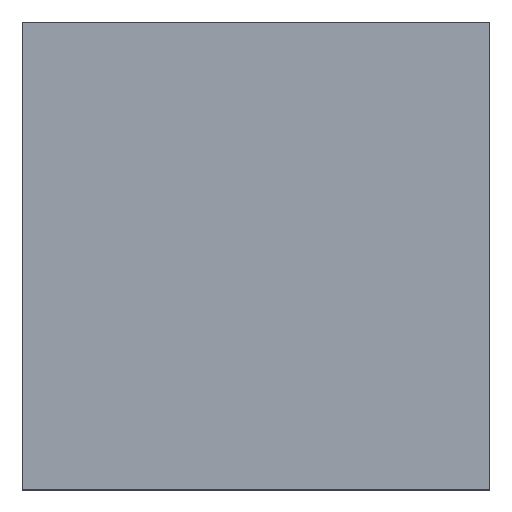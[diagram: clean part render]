
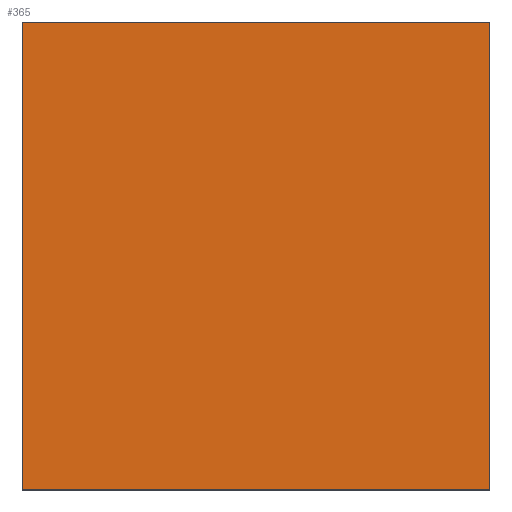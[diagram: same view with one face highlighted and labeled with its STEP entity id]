
A CAD part, top view. The second image highlights one B-rep face of the part: STEP entity #365.
In plain terms, the highlighted planar face has unit normal (0, 0, 1).
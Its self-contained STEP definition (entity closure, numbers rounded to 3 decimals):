
#51 = VERTEX_POINT('',#52);
#52 = CARTESIAN_POINT('',(-5.225,5.225,11.23));
#59 = PLANE('',#60);
#60 = AXIS2_PLACEMENT_3D('',#61,#62,#63);
#61 = CARTESIAN_POINT('',(-5.225,5.225,0.));
#62 = DIRECTION('',(0.,1.,0.));
#63 = DIRECTION('',(1.,0.,0.));
#71 = PLANE('',#72);
#72 = AXIS2_PLACEMENT_3D('',#73,#74,#75);
#73 = CARTESIAN_POINT('',(-5.225,-23.325,0.));
#74 = DIRECTION('',(-1.,0.,0.));
#75 = DIRECTION('',(0.,1.,0.));
#83 = EDGE_CURVE('',#51,#84,#86,.T.);
#84 = VERTEX_POINT('',#85);
#85 = CARTESIAN_POINT('',(23.325,5.225,11.23));
#86 = SURFACE_CURVE('',#87,(#91,#98),.PCURVE_S1.);
#87 = LINE('',#88,#89);
#88 = CARTESIAN_POINT('',(-5.225,5.225,11.23));
#89 = VECTOR('',#90,1.);
#90 = DIRECTION('',(1.,0.,0.));
#91 = PCURVE('',#59,#92);
#92 = DEFINITIONAL_REPRESENTATION('',(#93),#97);
#93 = LINE('',#94,#95);
#94 = CARTESIAN_POINT('',(0.,-11.23));
#95 = VECTOR('',#96,1.);
#96 = DIRECTION('',(1.,0.));
#97 = ( GEOMETRIC_REPRESENTATION_CONTEXT(2) 
PARAMETRIC_REPRESENTATION_CONTEXT() REPRESENTATION_CONTEXT('2D SPACE',''
  ) );
#98 = PCURVE('',#99,#104);
#99 = PLANE('',#100);
#100 = AXIS2_PLACEMENT_3D('',#101,#102,#103);
#101 = CARTESIAN_POINT('',(9.05,-9.05,11.23));
#102 = DIRECTION('',(-0.,0.,-1.));
#103 = DIRECTION('',(0.,-1.,0.));
#104 = DEFINITIONAL_REPRESENTATION('',(#105),#109);
#105 = LINE('',#106,#107);
#106 = CARTESIAN_POINT('',(-14.275,14.275));
#107 = VECTOR('',#108,1.);
#108 = DIRECTION('',(0.,-1.));
#109 = ( GEOMETRIC_REPRESENTATION_CONTEXT(2) 
PARAMETRIC_REPRESENTATION_CONTEXT() REPRESENTATION_CONTEXT('2D SPACE',''
  ) );
#127 = PLANE('',#128);
#128 = AXIS2_PLACEMENT_3D('',#129,#130,#131);
#129 = CARTESIAN_POINT('',(23.325,5.225,0.));
#130 = DIRECTION('',(1.,0.,-0.));
#131 = DIRECTION('',(0.,-1.,0.));
#169 = EDGE_CURVE('',#84,#170,#172,.T.);
#170 = VERTEX_POINT('',#171);
#171 = CARTESIAN_POINT('',(23.325,-23.325,11.23));
#172 = SURFACE_CURVE('',#173,(#177,#184),.PCURVE_S1.);
#173 = LINE('',#174,#175);
#174 = CARTESIAN_POINT('',(23.325,5.225,11.23));
#175 = VECTOR('',#176,1.);
#176 = DIRECTION('',(0.,-1.,0.));
#177 = PCURVE('',#127,#178);
#178 = DEFINITIONAL_REPRESENTATION('',(#179),#183);
#179 = LINE('',#180,#181);
#180 = CARTESIAN_POINT('',(0.,-11.23));
#181 = VECTOR('',#182,1.);
#182 = DIRECTION('',(1.,0.));
#183 = ( GEOMETRIC_REPRESENTATION_CONTEXT(2) 
PARAMETRIC_REPRESENTATION_CONTEXT() REPRESENTATION_CONTEXT('2D SPACE',''
  ) );
#184 = PCURVE('',#99,#185);
#185 = DEFINITIONAL_REPRESENTATION('',(#186),#190);
#186 = LINE('',#187,#188);
#187 = CARTESIAN_POINT('',(-14.275,-14.275));
#188 = VECTOR('',#189,1.);
#189 = DIRECTION('',(1.,0.));
#190 = ( GEOMETRIC_REPRESENTATION_CONTEXT(2) 
PARAMETRIC_REPRESENTATION_CONTEXT() REPRESENTATION_CONTEXT('2D SPACE',''
  ) );
#208 = PLANE('',#209);
#209 = AXIS2_PLACEMENT_3D('',#210,#211,#212);
#210 = CARTESIAN_POINT('',(23.325,-23.325,0.));
#211 = DIRECTION('',(0.,-1.,0.));
#212 = DIRECTION('',(-1.,0.,0.));
#245 = EDGE_CURVE('',#170,#246,#248,.T.);
#246 = VERTEX_POINT('',#247);
#247 = CARTESIAN_POINT('',(-5.225,-23.325,11.23));
#248 = SURFACE_CURVE('',#249,(#253,#260),.PCURVE_S1.);
#249 = LINE('',#250,#251);
#250 = CARTESIAN_POINT('',(23.325,-23.325,11.23));
#251 = VECTOR('',#252,1.);
#252 = DIRECTION('',(-1.,0.,0.));
#253 = PCURVE('',#208,#254);
#254 = DEFINITIONAL_REPRESENTATION('',(#255),#259);
#255 = LINE('',#256,#257);
#256 = CARTESIAN_POINT('',(0.,-11.23));
#257 = VECTOR('',#258,1.);
#258 = DIRECTION('',(1.,0.));
#259 = ( GEOMETRIC_REPRESENTATION_CONTEXT(2) 
PARAMETRIC_REPRESENTATION_CONTEXT() REPRESENTATION_CONTEXT('2D SPACE',''
  ) );
#260 = PCURVE('',#99,#261);
#261 = DEFINITIONAL_REPRESENTATION('',(#262),#266);
#262 = LINE('',#263,#264);
#263 = CARTESIAN_POINT('',(14.275,-14.275));
#264 = VECTOR('',#265,1.);
#265 = DIRECTION('',(0.,1.));
#266 = ( GEOMETRIC_REPRESENTATION_CONTEXT(2) 
PARAMETRIC_REPRESENTATION_CONTEXT() REPRESENTATION_CONTEXT('2D SPACE',''
  ) );
#316 = EDGE_CURVE('',#246,#51,#317,.T.);
#317 = SURFACE_CURVE('',#318,(#322,#329),.PCURVE_S1.);
#318 = LINE('',#319,#320);
#319 = CARTESIAN_POINT('',(-5.225,-23.325,11.23));
#320 = VECTOR('',#321,1.);
#321 = DIRECTION('',(0.,1.,0.));
#322 = PCURVE('',#71,#323);
#323 = DEFINITIONAL_REPRESENTATION('',(#324),#328);
#324 = LINE('',#325,#326);
#325 = CARTESIAN_POINT('',(0.,-11.23));
#326 = VECTOR('',#327,1.);
#327 = DIRECTION('',(1.,0.));
#328 = ( GEOMETRIC_REPRESENTATION_CONTEXT(2) 
PARAMETRIC_REPRESENTATION_CONTEXT() REPRESENTATION_CONTEXT('2D SPACE',''
  ) );
#329 = PCURVE('',#99,#330);
#330 = DEFINITIONAL_REPRESENTATION('',(#331),#335);
#331 = LINE('',#332,#333);
#332 = CARTESIAN_POINT('',(14.275,14.275));
#333 = VECTOR('',#334,1.);
#334 = DIRECTION('',(-1.,0.));
#335 = ( GEOMETRIC_REPRESENTATION_CONTEXT(2) 
PARAMETRIC_REPRESENTATION_CONTEXT() REPRESENTATION_CONTEXT('2D SPACE',''
  ) );
#365 = ADVANCED_FACE('',(#366),#99,.F.);
#366 = FACE_BOUND('',#367,.F.);
#367 = EDGE_LOOP('',(#368,#369,#370,#371));
#368 = ORIENTED_EDGE('',*,*,#83,.T.);
#369 = ORIENTED_EDGE('',*,*,#169,.T.);
#370 = ORIENTED_EDGE('',*,*,#245,.T.);
#371 = ORIENTED_EDGE('',*,*,#316,.T.);
